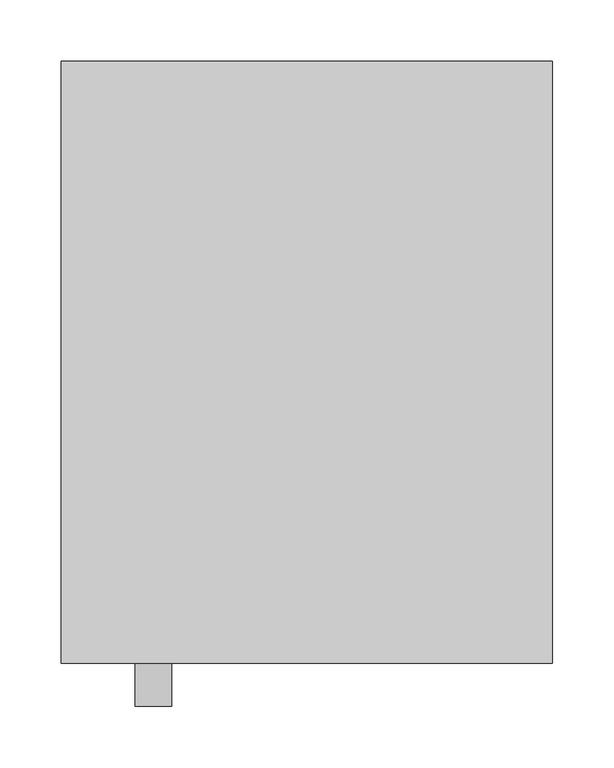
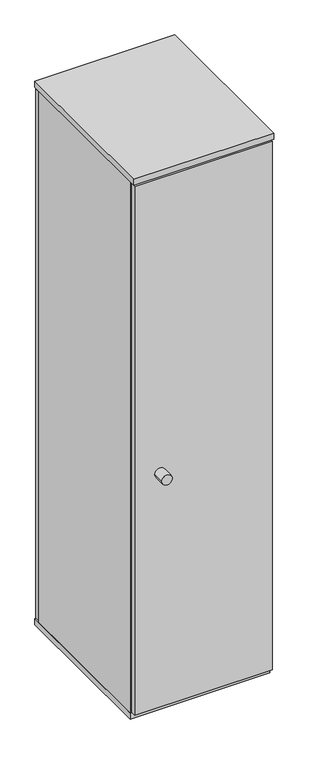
"""IFC4 building model written with IfcOpenShell, lengths in millimetres: furniture geometry, Grid Lockers - 1 Door Complimentary : GRID SINGLE DOOR CABINET 800mm(w) x 490mm(d) x 1654mm(h)."""

from ifc_helpers import new_model, si_unit, point, frame, frame_2d, origin, origin_with_axes, place, context, project, spatial, polyline, circle_curve, trimmed, segment, composite_curve, outline, extrude, source, transform, mapped, element, save


def furniture_483a1916(model_context):
    return source(origin(), model_context, "Body", "SweptSolid", [
        extrude(outline(composite_curve([segment(trimmed(circle_curve(frame_2d((350.0, -50.0)), 15.0), [point((335.0, -50.0))], [point((365.0, -50.0))], False, "CARTESIAN"), True, "CONTINUOUS"), segment(trimmed(circle_curve(frame_2d((350.0, -50.0)), 15.0), [point((365.0, -50.0))], [point((335.0, -50.0))], False, "CARTESIAN"), True, "CONTINUOUS")], self_intersect=False)), origin_with_axes(), (0.0, 0.0, 1.0), 10.0),
        extrude(outline(composite_curve([segment(trimmed(circle_curve(frame_2d((50.0, -50.0)), 15.0), [point((35.0, -50.0))], [point((65.0, -50.0))], False, "CARTESIAN"), True, "CONTINUOUS"), segment(trimmed(circle_curve(frame_2d((50.0, -50.0)), 15.0), [point((65.0, -50.0))], [point((35.0, -50.0))], False, "CARTESIAN"), True, "CONTINUOUS")], self_intersect=False)), origin_with_axes(), (0.0, 0.0, 1.0), 10.0),
        extrude(outline(composite_curve([segment(trimmed(circle_curve(frame_2d((50.0, -440.0)), 15.0), [point((35.0, -440.0))], [point((65.0, -440.0))], False, "CARTESIAN"), True, "CONTINUOUS"), segment(trimmed(circle_curve(frame_2d((50.0, -440.0)), 15.0), [point((65.0, -440.0))], [point((35.0, -440.0))], False, "CARTESIAN"), True, "CONTINUOUS")], self_intersect=False)), origin_with_axes(), (0.0, 0.0, 1.0), 10.0),
        extrude(outline(composite_curve([segment(trimmed(circle_curve(frame_2d((350.0, -440.0)), 15.0), [point((335.0, -440.0))], [point((365.0, -440.0))], False, "CARTESIAN"), True, "CONTINUOUS"), segment(trimmed(circle_curve(frame_2d((350.0, -440.0)), 15.0), [point((365.0, -440.0))], [point((335.0, -440.0))], False, "CARTESIAN"), True, "CONTINUOUS")], self_intersect=False)), origin_with_axes(), (0.0, 0.0, 1.0), 10.0),
        extrude(outline(polyline([(400.0, -472.0), (0.0, -472.0), (0.0, 0.0), (400.0, 0.0), (400.0, -472.0)])), frame((0.0, 0.0, 10.0), z_axis=(0.0, 0.0, 1.0), x_axis=(1.0, 0.0, 0.0)), (0.0, 0.0, 1.0), 18.0),
        extrude(outline(polyline([(400.0, -490.0), (0.0, -490.0), (0.0, 0.0), (400.0, 0.0), (400.0, -490.0)])), frame((0.0, 0.0, 1636.0), z_axis=(0.0, 0.0, 1.0), x_axis=(1.0, 0.0, 0.0)), (0.0, 0.0, 1.0), 18.0),
        extrude(outline(composite_curve([segment(trimmed(circle_curve(frame_2d((740.0, 75.0)), 15.0), [point((740.0, 60.0))], [point((740.0, 90.0))], False, "CARTESIAN"), True, "CONTINUOUS"), segment(trimmed(circle_curve(frame_2d((740.0, 75.0)), 15.0), [point((740.0, 90.0))], [point((740.0, 60.0))], False, "CARTESIAN"), True, "CONTINUOUS")], self_intersect=False)), frame((0.0, -525.0, 0.0), z_axis=(0.0, 1.0, 0.0), x_axis=(0.0, 0.0, 1.0)), (0.0, 0.0, 1.0), 35.0),
        extrude(outline(polyline([(1636.0, 400.0), (1636.0, 0.0), (28.0, 0.0), (28.0, 3.0), (1611.0, 3.0), (1611.0, 397.0), (28.0, 397.0), (28.0, 400.0), (1636.0, 400.0)])), frame((0.0, -472.0, 0.0), z_axis=(0.0, 1.0, 0.0), x_axis=(0.0, 0.0, 1.0)), (0.0, 0.0, 1.0), 454.0),
        extrude(outline(polyline([(397.0, -490.0), (3.0, -490.0), (3.0, -472.0), (397.0, -472.0), (397.0, -490.0)])), frame((0.0, 0.0, 32.0), z_axis=(0.0, 0.0, 1.0), x_axis=(1.0, 0.0, 0.0)), (0.0, 0.0, 1.0), 1598.0),
        extrude(outline(polyline([(397.0, 0.0), (397.0, -18.0), (3.0, -18.0), (3.0, 0.0), (397.0, 0.0)])), frame((0.0, 0.0, 18.0), z_axis=(0.0, 0.0, 1.0), x_axis=(1.0, 0.0, 0.0)), (0.0, 0.0, 1.0), 1612.0),
    ])


if __name__ == "__main__":
    model = new_model("IFC4")
    model_context = context("Model", 3, world=origin())
    ifc_project = project(units=[si_unit("LENGTHUNIT", "METRE", prefix="MILLI")], contexts=[model_context])
    site = spatial("IfcSite", under=ifc_project)
    building = spatial("IfcBuilding", under=site)
    placement = place(None, origin())
    furniture_shape = furniture_483a1916(model_context)
    element("IfcFurniture", 1, ObjectType="Grid Lockers - 1 Door Complimentary : GRID SINGLE DOOR CABINET 800mm(w) x 490mm(d) x 1654mm(h)", at=placement, inside=building, context=model_context, shape_type="MappedRepresentation", body=[
        mapped(furniture_shape, transform((0.0, 0.0, 0.0), x_axis=(1.0, 0.0, 0.0), y_axis=(0.0, 1.0, 0.0), z_axis=(0.0, 0.0, 1.0))),
    ])
    save(model, "model.ifc")
